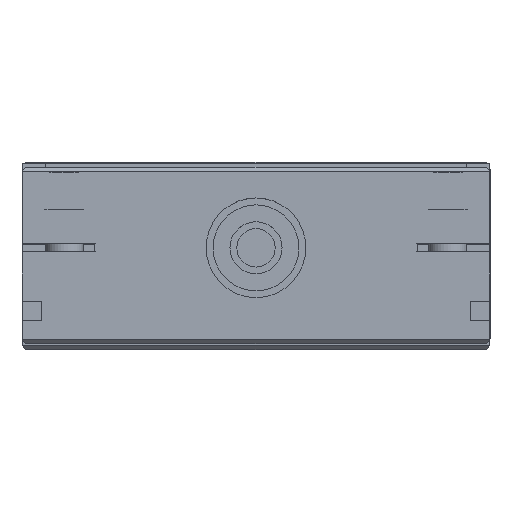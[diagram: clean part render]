
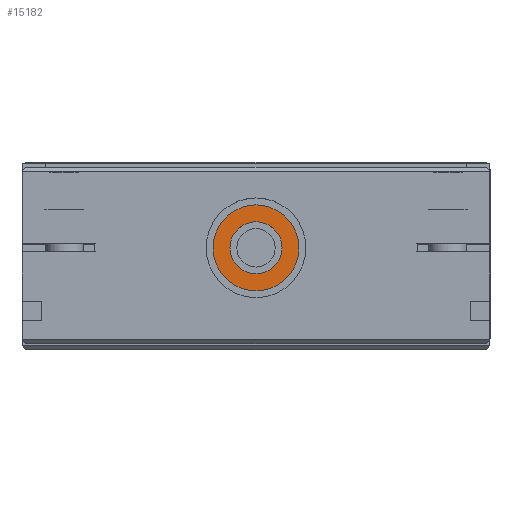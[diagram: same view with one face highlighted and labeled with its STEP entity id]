
A CAD part, top view. The second image highlights one B-rep face of the part: STEP entity #15182.
In plain terms, the highlighted planar face has unit normal (0, 0, 1) as drawn and (1, 0, 0) by its records, which use the part's own axes.
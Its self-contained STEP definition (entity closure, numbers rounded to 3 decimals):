
#392 = CIRCLE ( 'NONE', #14026, 11.2 ) ;
#1946 = DIRECTION ( 'NONE',  ( 0., 0., 1. ) ) ;
#2404 = VERTEX_POINT ( 'NONE', #38773 ) ;
#3231 = CIRCLE ( 'NONE', #9582, 6.8 ) ;
#4823 = EDGE_CURVE ( 'NONE', #2404, #34944, #3231, .T. ) ;
#4908 = CARTESIAN_POINT ( 'NONE',  ( 438., 31.8, 0. ) ) ;
#7298 = CARTESIAN_POINT ( 'NONE',  ( 438., 25., 6.8 ) ) ;
#9191 = FACE_BOUND ( 'NONE', #10722, .T. ) ;
#9326 = AXIS2_PLACEMENT_3D ( 'NONE', #9922, #37158, #1946 ) ;
#9582 = AXIS2_PLACEMENT_3D ( 'NONE', #42488, #41931, #38218 ) ;
#9922 = CARTESIAN_POINT ( 'NONE',  ( 438., 25., 0. ) ) ;
#10722 = EDGE_LOOP ( 'NONE', ( #42094, #18040 ) ) ;
#11283 = DIRECTION ( 'NONE',  ( 0., 0., 1. ) ) ;
#11877 = VERTEX_POINT ( 'NONE', #50985 ) ;
#12941 = CARTESIAN_POINT ( 'NONE',  ( 438., 25., 0. ) ) ;
#14026 = AXIS2_PLACEMENT_3D ( 'NONE', #33131, #27773, #11283 ) ;
#15182 = ADVANCED_FACE ( 'NONE', ( #21145, #9191 ), #21418, .F. ) ;
#16383 = VERTEX_POINT ( 'NONE', #52845 ) ;
#18040 = ORIENTED_EDGE ( 'NONE', *, *, #4823, .T. ) ;
#18324 = EDGE_CURVE ( 'NONE', #34944, #2404, #54665, .T. ) ;
#20408 = EDGE_CURVE ( 'NONE', #11877, #16383, #392, .T. ) ;
#21145 = FACE_OUTER_BOUND ( 'NONE', #21857, .T. ) ;
#21418 = PLANE ( 'NONE',  #32003 ) ;
#21857 = EDGE_LOOP ( 'NONE', ( #55050, #23029 ) ) ;
#23029 = ORIENTED_EDGE ( 'NONE', *, *, #20408, .F. ) ;
#26269 = DIRECTION ( 'NONE',  ( -1., 0., 0. ) ) ;
#27773 = DIRECTION ( 'NONE',  ( -1., 0., 0. ) ) ;
#29670 = DIRECTION ( 'NONE',  ( 0., 0., 1. ) ) ;
#29922 = DIRECTION ( 'NONE',  ( -1., 0., 0. ) ) ;
#32003 = AXIS2_PLACEMENT_3D ( 'NONE', #4908, #29922, #34740 ) ;
#33131 = CARTESIAN_POINT ( 'NONE',  ( 438., 25., 0. ) ) ;
#34740 = DIRECTION ( 'NONE',  ( 0., 0., 1. ) ) ;
#34944 = VERTEX_POINT ( 'NONE', #7298 ) ;
#37158 = DIRECTION ( 'NONE',  ( -1., 0., 0. ) ) ;
#37403 = CIRCLE ( 'NONE', #54672, 11.2 ) ;
#38218 = DIRECTION ( 'NONE',  ( 0., 0., 1. ) ) ;
#38773 = CARTESIAN_POINT ( 'NONE',  ( 438., 25., -6.8 ) ) ;
#40910 = EDGE_CURVE ( 'NONE', #16383, #11877, #37403, .T. ) ;
#41931 = DIRECTION ( 'NONE',  ( -1., 0., 0. ) ) ;
#42094 = ORIENTED_EDGE ( 'NONE', *, *, #18324, .T. ) ;
#42488 = CARTESIAN_POINT ( 'NONE',  ( 438., 25., 0. ) ) ;
#50985 = CARTESIAN_POINT ( 'NONE',  ( 438., 25., -11.2 ) ) ;
#52845 = CARTESIAN_POINT ( 'NONE',  ( 438., 25., 11.2 ) ) ;
#54665 = CIRCLE ( 'NONE', #9326, 6.8 ) ;
#54672 = AXIS2_PLACEMENT_3D ( 'NONE', #12941, #26269, #29670 ) ;
#55050 = ORIENTED_EDGE ( 'NONE', *, *, #40910, .F. ) ;
